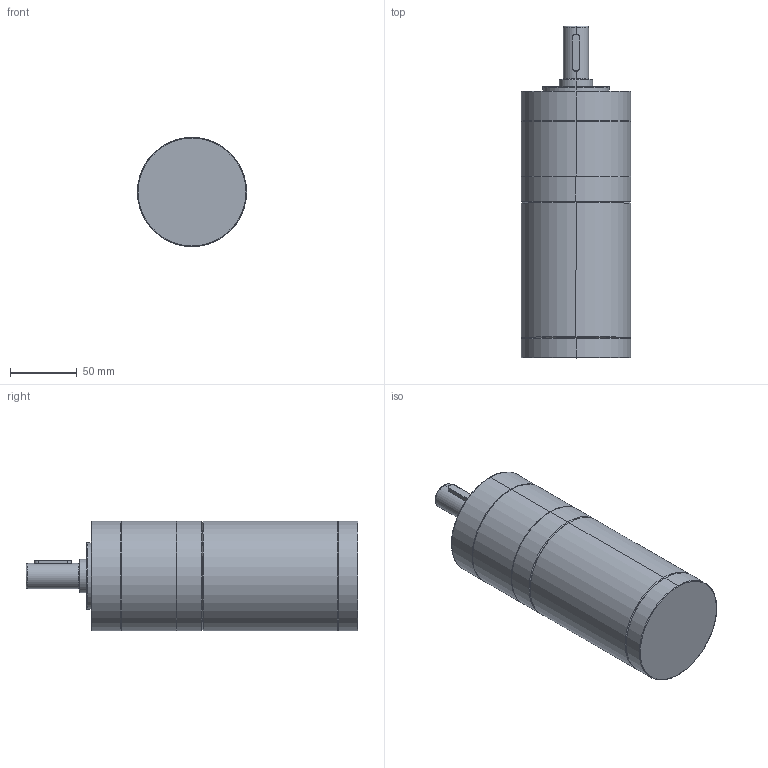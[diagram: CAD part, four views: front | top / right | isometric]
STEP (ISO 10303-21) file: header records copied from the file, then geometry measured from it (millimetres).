
FILE_DESCRIPTION (( 'STEP AP203' ), '1' );
FILE_NAME ('Z82BLDPN300W熬厒掀珨撰淕儂.STEP', '2021-07-16T05:17:25', ( '' ), ( '' ), 'SwSTEP 2.0', 'SolidWorks 2021', '' );
FILE_SCHEMA (( 'CONFIG_CONTROL_DESIGN' ));
Length unit declared in the file: millimetre
Products named in the file (3): 82PN珨撰; 82酗; Z82BLDPN300W熬厒掀珨撰淕儂
Assembly tree (2 placements, depth 2):
  Z82BLDPN300W熬厒掀珨撰淕儂
    82PN珨撰
    82酗
Bounding box: 82 x 249.2 x 82 mm (x, y, z)
Volume: 1063410.6 mm3; surface area: 80009.4 mm2
Topology: 2 solids, 2 shells, 155 faces, 341 edges, 203 vertices
Faces by surface type: cylinder 50, plane 49, cone 32, bspline 20, torus 4
Entity records: 4744 total; most frequent: CARTESIAN_POINT 1114, DIRECTION 733, ORIENTED_EDGE 662, EDGE_CURVE 331, AXIS2_PLACEMENT_3D 286, VERTEX_POINT 203, EDGE_LOOP 178, VECTOR 161
